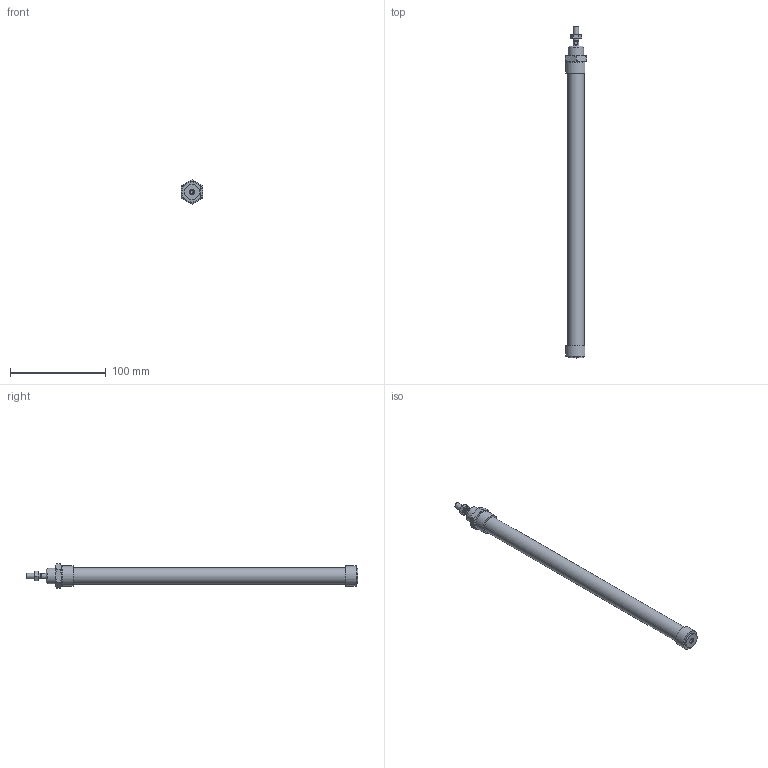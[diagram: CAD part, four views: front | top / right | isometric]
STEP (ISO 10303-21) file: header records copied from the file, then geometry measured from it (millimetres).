
FILE_DESCRIPTION((''),'2;1');
FILE_NAME('I:\Area Tecnica\Disegni\VARIE-3D\Componenti\1280\1281_##_####_#\1281_16_0250.iam.stp','2009-06-04T09:38:49',(''),(''),'Autodesk Inventor 2010','Autodesk Inventor 2010','');
FILE_SCHEMA(('AUTOMOTIVE_DESIGN { 1 0 10303 214 1 1 1 1 }'));
Length unit declared in the file: millimetre
Products named in the file (5): 1281_16_0250; C1281_16_250; S1280_16_250; 1200_16_05; 1200_16_06
Assembly tree (4 placements, depth 2):
  1281_16_0250
    C1281_16_250
    S1280_16_250
    1200_16_05
    1200_16_06
Bounding box: 22 x 346 x 25.4 mm (x, y, z)
Volume: 79241.6 mm3; surface area: 31203.5 mm2
Topology: 4 solids, 4 shells, 83 faces, 169 edges, 102 vertices
Faces by surface type: plane 34, cone 26, bspline 14, cylinder 9
Full cylindrical faces by diameter (mm): 5 x1, 6 x3, 16 x2, 17.2 x1
Entity records: 2370 total; most frequent: CARTESIAN_POINT 636, DIRECTION 314, ORIENTED_EDGE 284, AXIS2_PLACEMENT_3D 142, EDGE_CURVE 142, EDGE_LOOP 116, VERTEX_POINT 96, STYLED_ITEM 87
